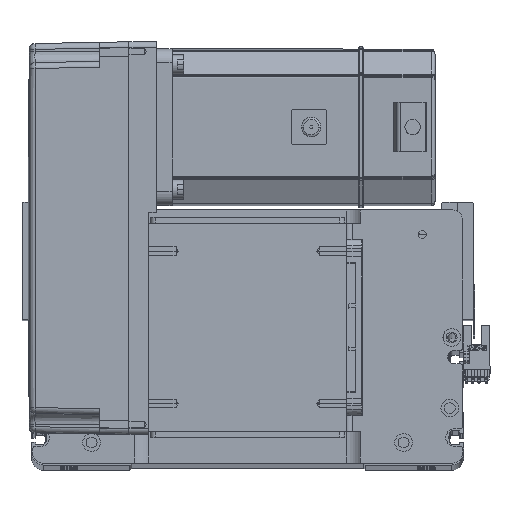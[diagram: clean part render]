
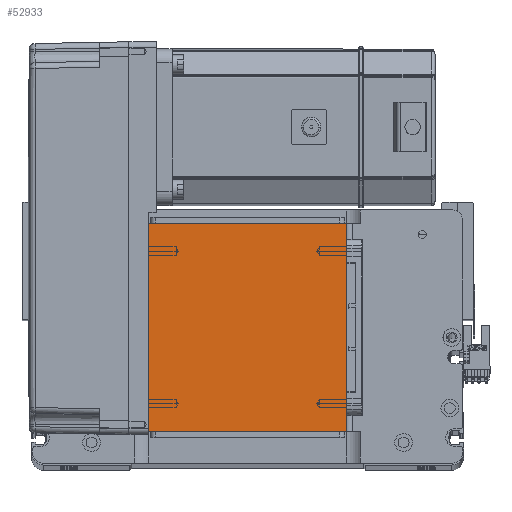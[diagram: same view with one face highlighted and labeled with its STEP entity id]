
A CAD part, top view. The second image highlights one B-rep face of the part: STEP entity #52933.
In plain terms, the highlighted planar face has unit normal (0, 0, 1).
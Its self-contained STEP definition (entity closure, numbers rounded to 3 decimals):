
#290 = LINE ( 'NONE', #31229, #10613 ) ;
#308 = VECTOR ( 'NONE', #29922, 1000. ) ;
#6973 = DIRECTION ( 'NONE',  ( 0., 0., 1. ) ) ;
#10613 = VECTOR ( 'NONE', #10730, 1000. ) ;
#10730 = DIRECTION ( 'NONE',  ( 0., -1., 0. ) ) ;
#11296 = CARTESIAN_POINT ( 'NONE',  ( 50.5, 122., 115. ) ) ;
#11502 = PLANE ( 'NONE',  #22766 ) ;
#14172 = CARTESIAN_POINT ( 'NONE',  ( 50.5, 122., 115. ) ) ;
#16153 = EDGE_CURVE ( 'NONE', #20911, #31850, #48191, .T. ) ;
#17794 = ORIENTED_EDGE ( 'NONE', *, *, #41105, .T. ) ;
#17896 = CARTESIAN_POINT ( 'NONE',  ( -50.5, 122., 115. ) ) ;
#19473 = DIRECTION ( 'NONE',  ( 0., 1., 0. ) ) ;
#20132 = ORIENTED_EDGE ( 'NONE', *, *, #53072, .T. ) ;
#20911 = VERTEX_POINT ( 'NONE', #14172 ) ;
#20977 = ORIENTED_EDGE ( 'NONE', *, *, #21930, .T. ) ;
#21930 = EDGE_CURVE ( 'NONE', #31850, #36138, #290, .T. ) ;
#22367 = EDGE_LOOP ( 'NONE', ( #20977, #20132, #17794, #43690 ) ) ;
#22766 = AXIS2_PLACEMENT_3D ( 'NONE', #48610, #6973, #44270 ) ;
#24965 = LINE ( 'NONE', #11296, #44353 ) ;
#25745 = CARTESIAN_POINT ( 'NONE',  ( -50.5, 122., 115. ) ) ;
#29284 = CARTESIAN_POINT ( 'NONE',  ( -50.5, 16., 115. ) ) ;
#29922 = DIRECTION ( 'NONE',  ( -1., 0., 0. ) ) ;
#31229 = CARTESIAN_POINT ( 'NONE',  ( -50.5, 122., 115. ) ) ;
#31367 = VERTEX_POINT ( 'NONE', #36471 ) ;
#31850 = VERTEX_POINT ( 'NONE', #17896 ) ;
#34281 = VECTOR ( 'NONE', #49144, 1000. ) ;
#36138 = VERTEX_POINT ( 'NONE', #47847 ) ;
#36471 = CARTESIAN_POINT ( 'NONE',  ( 50.5, 16., 115. ) ) ;
#41105 = EDGE_CURVE ( 'NONE', #31367, #20911, #24965, .T. ) ;
#43690 = ORIENTED_EDGE ( 'NONE', *, *, #16153, .T. ) ;
#44270 = DIRECTION ( 'NONE',  ( 1., 0., 0. ) ) ;
#44353 = VECTOR ( 'NONE', #19473, 1000. ) ;
#47847 = CARTESIAN_POINT ( 'NONE',  ( -50.5, 16., 115. ) ) ;
#48191 = LINE ( 'NONE', #25745, #308 ) ;
#48610 = CARTESIAN_POINT ( 'NONE',  ( 0., 0., 115. ) ) ;
#49117 = FACE_OUTER_BOUND ( 'NONE', #22367, .T. ) ;
#49144 = DIRECTION ( 'NONE',  ( 1., 0., 0. ) ) ;
#52933 = ADVANCED_FACE ( 'NONE', ( #49117 ), #11502, .T. ) ;
#53072 = EDGE_CURVE ( 'NONE', #36138, #31367, #53546, .T. ) ;
#53546 = LINE ( 'NONE', #29284, #34281 ) ;
